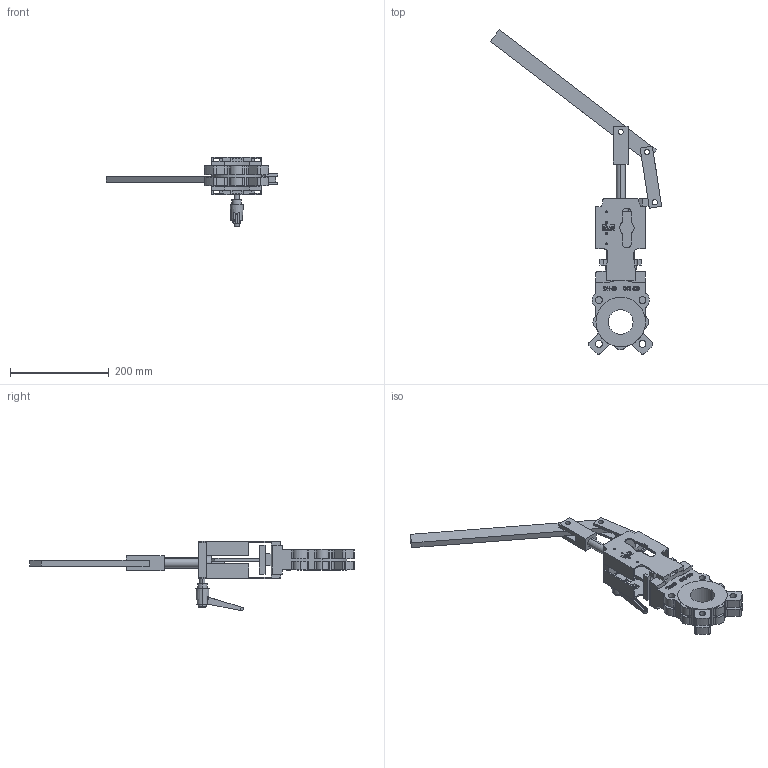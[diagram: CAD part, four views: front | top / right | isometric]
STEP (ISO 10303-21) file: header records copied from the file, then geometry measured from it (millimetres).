
FILE_DESCRIPTION (( 'STEP AP203' ), '1' );
FILE_NAME ('70205030034.STEP', '2017-03-24T13:04:45', ( '' ), ( '' ), 'SwSTEP 2.0', 'SolidWorks 2016', '' );
FILE_SCHEMA (( 'CONFIG_CONTROL_DESIGN' ));
Length unit declared in the file: millimetre
Products named in the file (1): 70205030034
Bounding box: 346.52 x 656.43 x 141.5 mm (x, y, z)
Volume: 1182787.5 mm3; surface area: 254241.7 mm2
Topology: 1 solids, 1 shells, 877 faces, 2465 edges, 1634 vertices
Faces by surface type: plane 452, cylinder 278, bspline 142, cone 5
Entity records: 37424 total; most frequent: CARTESIAN_POINT 14965, ORIENTED_EDGE 4930, DIRECTION 4246, EDGE_CURVE 2465, VERTEX_POINT 1634, VECTOR 1576, LINE 1576, AXIS2_PLACEMENT_3D 1335
